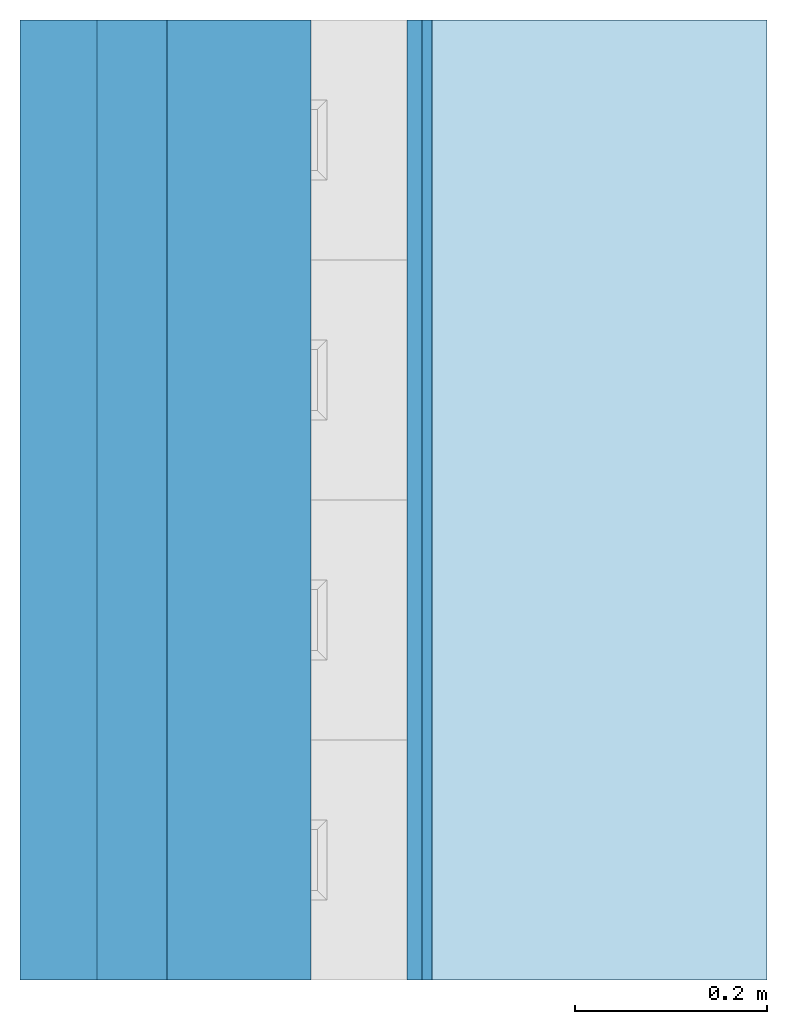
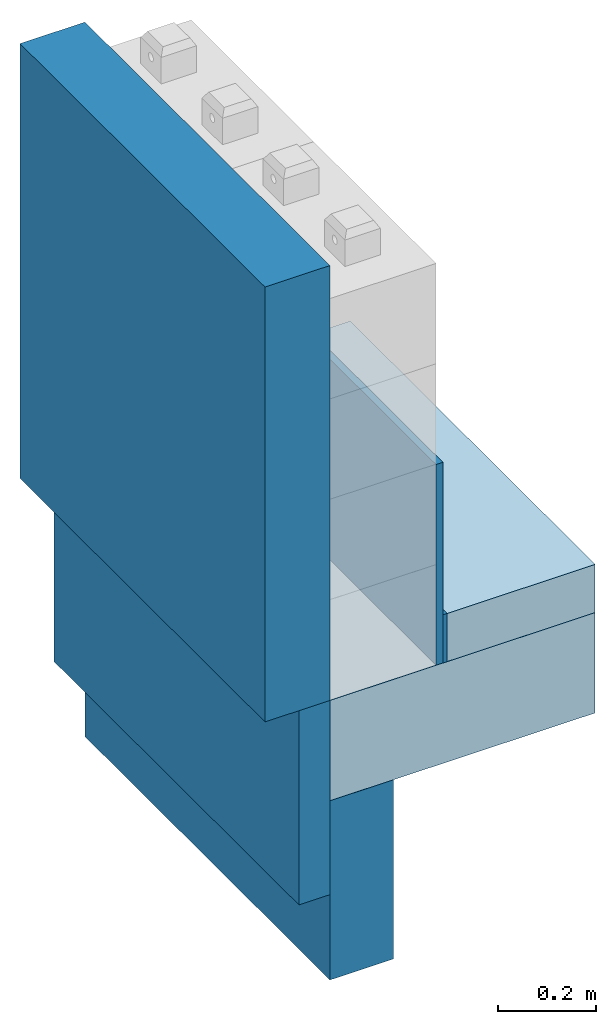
# One storey, incomplete: 6 walls, 2 slabs.
"""IFC4 building model written with IfcOpenShell, lengths in centimetres."""

from ifc_helpers import new_model, entity, si_unit, converted_unit, direction, frame, origin, place, context, subcontext, project, spatial, indexed_curve, outline, extrude, material, constituent, constituent_set, type_object, element, save


model = new_model("IFC4")

# Units and contexts
model_context = context("Model", 3, precision=0.001, world=origin(), true_north=direction((0.0, 1.0)))
body_context = subcontext(model_context, "Body", "Model", "MODEL_VIEW")
ifc_project = project(units=[si_unit("LENGTHUNIT", "METRE", prefix="CENTI"), si_unit("AREAUNIT", "SQUARE_METRE"), si_unit("VOLUMEUNIT", "CUBIC_METRE"), converted_unit("PLANEANGLEUNIT", "DEGREE", entity("IfcPlaneAngleMeasure", 0.017453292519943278), si_unit("PLANEANGLEUNIT", "RADIAN"), dimensions=[0, 0, 0, 0, 0, 0, 0])], contexts=[model_context])

# Site, building, storey
site_placement = place(None, origin())
site = spatial("IfcSite", under=ifc_project, at=site_placement, Name="Default", CompositionType="ELEMENT")
building_placement = place(site_placement, origin())
building = spatial("IfcBuilding", under=site, at=building_placement, CompositionType="ELEMENT")
storey_placement = place(building_placement, frame((0.0, 0.0, -12.0)))
storey = spatial("IfcBuildingStorey", under=building, at=storey_placement, Name="L00__ABOVE Slab", CompositionType="ELEMENT", Elevation=-12.000000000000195)

# Slabs
ifc_material_1 = material(Name="_STRUCTURE__Reinforced Concrete")
slab_type_1 = type_object("IfcSlabType", Name="Floors : Floor : flr__STRUCTURE__Reinforced Concrete 25cm", PredefinedType="FLOOR", material=ifc_material_1)
slab_1_placement = place(storey_placement, origin())
element("IfcSlab", 1, at=slab_1_placement, inside=storey, type_object=slab_type_1, material=ifc_material_1, Name="Floors : Floor : flr__STRUCTURE__Reinforced Concrete 25cm", PredefinedType="FLOOR", context=body_context, shape_type="SweptSolid", body=[
    extrude(outline(indexed_curve([(-49.99999999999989, -31.250000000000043), (50.000000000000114, -31.250000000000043), (50.000000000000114, 31.25000000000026), (-49.99999999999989, 31.25000000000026), (-49.99999999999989, -31.250000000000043)], self_intersect=False)), frame((1444.3994566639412, 1825.371873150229, 10.0), z_axis=(0.0, 0.0, -1.0), x_axis=(0.0, 1.0, 0.0)), (0.0, 0.0, 1.0), 25.0),
])
ifc_material_2 = material(Name="_FINISH STAIR__Int__Parquet Flooring__Stairs", Category="Unassigned")
ifc_constituent_1 = constituent(ifc_material_2, Name="_FINISH STAIR__Int__Parquet Flooring__Stairs", Category="Unassigned", fraction=0.08333333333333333)
ifc_material_3 = material(Name="_FLR LAYERS__Screed, SL 0.5%__Semi-dry CEM, Rc ≥ 22.5 N/mm²", Category="Concrete")
ifc_constituent_2 = constituent(ifc_material_3, Name="_FLR LAYERS__Screed, SL 0.5%__Semi-dry CEM, Rc ≥ 22.5 N/mm²", Category="Concrete", fraction=0.2916666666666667)
ifc_material_4 = material(Name="_FLR COVERING__Polished Concrete", Category="Concrete")
ifc_constituent_3 = constituent(ifc_material_4, Name="_FLR COVERING__Polished Concrete", Category="Concrete", fraction=0.5833333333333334)
ifc_material_5 = material(Name="_FCD VENT LAYERS__Support Board__OSB 3", Category="Ceramic")
ifc_constituent_4 = constituent(ifc_material_5, Name="_FCD VENT LAYERS__Support Board__OSB 3", Category="Ceramic", fraction=0.041666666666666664)
ifc_constituent_set_1 = constituent_set(constituents=[ifc_constituent_1, ifc_constituent_2, ifc_constituent_3, ifc_constituent_4], Name="Floor:flr__INT COVERING__Parquet")
slab_type_2 = type_object("IfcSlabType", Name="Floors : Floor : flr__INT COVERING__Parquet", PredefinedType="FLOOR", material=ifc_constituent_set_1)
slab_2_placement = place(storey_placement, origin())
element("IfcSlab", 2, at=slab_2_placement, inside=storey, type_object=slab_type_2, material=ifc_constituent_set_1, Name="Floors : Floor : flr__INT COVERING__Parquet", PredefinedType="FLOOR", context=body_context, shape_type="SweptSolid", body=[
    extrude(outline(indexed_curve([(-17.449999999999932, -50.000000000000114), (17.449999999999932, -50.000000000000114), (17.449999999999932, 50.000000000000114), (-17.449999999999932, 50.000000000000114), (-17.449999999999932, -50.000000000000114)], self_intersect=False)), frame((1458.1994566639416, 1825.3718731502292, 21.0), z_axis=(0.0, 0.0, 1.0), x_axis=(-1.0, 0.0, 0.0)), (0.0, 0.0, 1.0), 0.9999999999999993),
    extrude(outline(indexed_curve([(-17.449999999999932, -49.99999999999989), (17.449999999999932, -49.99999999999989), (17.449999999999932, 50.000000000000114), (-17.449999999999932, 50.000000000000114), (-17.449999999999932, -49.99999999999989)], self_intersect=False)), frame((1458.1994566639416, 1825.3718731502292, 17.499999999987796), z_axis=(0.0, 0.0, 1.0), x_axis=(-1.0, 0.0, 0.0)), (0.0, 0.0, 1.0), 3.5000000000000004),
    extrude(outline(indexed_curve([(-17.449999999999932, -49.99999999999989), (17.449999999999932, -49.99999999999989), (17.449999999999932, 50.000000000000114), (-17.449999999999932, 50.000000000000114), (-17.449999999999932, -49.99999999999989)], self_intersect=False)), frame((1458.1994566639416, 1825.3718731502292, 10.499999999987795), z_axis=(0.0, 0.0, 1.0), x_axis=(-1.0, 0.0, 0.0)), (0.0, 0.0, 1.0), 7.0),
    extrude(outline(indexed_curve([(-17.449999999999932, -49.99999999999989), (17.449999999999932, -49.99999999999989), (17.449999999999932, 50.000000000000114), (-17.449999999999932, 50.000000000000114), (-17.449999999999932, -49.99999999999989)], self_intersect=False)), frame((1458.1994566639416, 1825.3718731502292, 10.0), z_axis=(0.0, 0.0, 1.0), x_axis=(-1.0, 0.0, 0.0)), (0.0, 0.0, 1.0), 0.49999999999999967),
])

# Walls
ifc_material_6 = material(Name="_FCD FINISH__Mineral Render__Combed, H L/O__Capatect Kreativeffekt \"Filigrano\"__White", Category="Concrete")
ifc_constituent_5 = constituent(ifc_material_6, Name="_FCD FINISH__Mineral Render__Combed, H L/O__Capatect Kreativeffekt \"Filigrano\"__White", Category="Concrete", fraction=0.0196078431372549)
ifc_material_7 = material(Name="_STRUCTURE__Wood Solid")
ifc_constituent_6 = constituent(ifc_material_7, Name="_STRUCTURE__Wood Solid", fraction=0.06535947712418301)
ifc_material_8 = material(Name="_FCD LAYERS__Insulation__Wood-fiber__Steico", Category="Unassigned")
ifc_constituent_7 = constituent(ifc_material_8, Name="_FCD LAYERS__Insulation__Wood-fiber__Steico", Category="Unassigned", fraction=0.9150326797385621)
ifc_constituent_set_2 = constituent_set(constituents=[ifc_constituent_5, ifc_constituent_6, ifc_constituent_7], Name="Basic Wall:wll__EXT ENCLOSURE__Spritzkork, Wood Insulation 8.4cm__TriqBriq, FS.1")
wall_type_1 = type_object("IfcWallType", Name="Walls : Basic Wall : wll__EXT ENCLOSURE__Spritzkork, Wood Insulation 8.4cm__TriqBriq, FS.1", PredefinedType="STANDARD", material=ifc_constituent_set_2)
for number, where, z_axis, x_axis in (
    (3, (1405.4994566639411, 1875.3718731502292, 10.0), (0.0, 0.0, 1.0), (0.0, -1.0, 0.0)),
    (4, (1405.4994566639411, 1875.3718731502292, 10.0), (0.0, 0.0, 1.0), (0.0, -1.0, 0.0)),
):
    element("IfcWall", number, at=place(storey_placement, frame(where, z_axis=z_axis, x_axis=x_axis)), inside=storey, type_object=wall_type_1, material=ifc_constituent_set_2, Name="Walls : Basic Wall : wll__EXT ENCLOSURE__Spritzkork, Wood Insulation 8.4cm__TriqBriq, FS.1", PredefinedType="NOTDEFINED", context=body_context, shape_type="SweptSolid", body=[
        extrude(outline(indexed_curve([(-7.000000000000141, -50.000000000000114), (6.9999999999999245, -50.000000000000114), (7.000000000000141, 50.000000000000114), (-6.9999999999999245, 50.000000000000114), (-7.000000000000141, -50.000000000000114)], self_intersect=False)), frame((50.0, 0.6500000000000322, 0.0), z_axis=(0.0, 0.0, 1.0), x_axis=(0.0, -1.0, 0.0)), (0.0, 0.0, 1.0), 108.33333333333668),
        extrude(outline(indexed_curve([(-49.99999999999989, -0.499999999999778), (50.00000000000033, -0.499999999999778), (50.00000000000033, 0.5000000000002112), (-49.99999999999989, 0.5000000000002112), (-49.99999999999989, -0.499999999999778)], self_intersect=False)), frame((50.0, -6.850000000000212, 0.0)), (0.0, 0.0, 1.0), 108.33333333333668),
        extrude(outline(indexed_curve([(-0.14999999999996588, -50.00000000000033), (0.14999999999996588, -50.00000000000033), (0.15000000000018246, 49.99999999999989), (-0.14999999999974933, 49.99999999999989), (-0.14999999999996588, -50.00000000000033)], self_intersect=False)), frame((50.0, -7.500000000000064, 0.0), z_axis=(0.0, 0.0, 1.0), x_axis=(0.0, 1.0, 0.0)), (0.0, 0.0, 1.0), 108.33333333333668),
    ])
wall_type_2 = type_object("IfcWallType", Name="Walls : Basic Wall : wll__STRUCTURE__Reinforced Concrete 15cm", PredefinedType="STANDARD")
wall_1_placement = place(storey_placement, frame((1420.6494566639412, 1875.3718731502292, -59.64076561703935), z_axis=(0.0, 0.0, 1.0), x_axis=(0.0, -1.0, 0.0)))
element("IfcWall", 5, at=wall_1_placement, inside=storey, type_object=wall_type_2, material=ifc_material_1, Name="Walls : Basic Wall : wll__STRUCTURE__Reinforced Concrete 15cm", PredefinedType="NOTDEFINED", context=body_context, shape_type="SweptSolid", body=[
    extrude(outline(indexed_curve([(100.00000000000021, 7.499999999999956), (-1.0828671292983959e-14, 7.5000000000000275), (1.0828671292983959e-14, -7.5000000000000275), (100.00000000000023, -7.5000000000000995), (100.00000000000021, 7.499999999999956)], self_intersect=False)), origin(), (0.0, 0.0, 1.0), 44.640765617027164),
])
ifc_constituent_8 = constituent(ifc_material_6, Name="_FCD FINISH__Mineral Render__Combed, H L/O__Capatect Kreativeffekt \"Filigrano\"__White", Category="Concrete", fraction=0.0410958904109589)
ifc_constituent_9 = constituent(ifc_material_7, Name="_STRUCTURE__Wood Solid", fraction=0.136986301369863)
ifc_constituent_10 = constituent(ifc_material_8, Name="_FCD LAYERS__Insulation__Wood-fiber__Steico", Category="Unassigned", fraction=0.8219178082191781)
ifc_constituent_set_3 = constituent_set(constituents=[ifc_constituent_8, ifc_constituent_9, ifc_constituent_10], Name="Basic Wall:wll__EXT ENCLOSURE__Spritzkork, Wood Insulation 6.4cm__TriqBriq, FS.1 2")
wall_type_3 = type_object("IfcWallType", Name="Walls : Basic Wall : wll__EXT ENCLOSURE__Spritzkork, Wood Insulation 6.4cm__TriqBriq, FS.1 2", PredefinedType="STANDARD", material=ifc_constituent_set_3)
wall_2_placement = place(storey_placement, frame((1409.4994566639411, 1875.3718731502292, -38.38770897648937), z_axis=(0.0, 0.0, 1.0), x_axis=(0.0, -1.0, 0.0)))
element("IfcWall", 6, at=wall_2_placement, inside=storey, type_object=wall_type_3, material=ifc_constituent_set_3, Name="Walls : Basic Wall : wll__EXT ENCLOSURE__Spritzkork, Wood Insulation 6.4cm__TriqBriq, FS.1 2", PredefinedType="NOTDEFINED", context=body_context, shape_type="SweptSolid", body=[
    extrude(outline(indexed_curve([(-49.99999999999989, -0.5000000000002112), (50.00000000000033, -0.5000000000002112), (50.00000000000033, 0.4999999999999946), (-49.99999999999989, 0.4999999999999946), (-49.99999999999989, -0.5000000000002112)], self_intersect=False)), frame((50.0, -2.849999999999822, 0.0)), (0.0, 0.0, 1.0), 48.38770897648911),
    extrude(outline(indexed_curve([(-3.0000000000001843, -50.000000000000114), (2.999999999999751, -50.000000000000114), (2.9999999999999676, 50.000000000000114), (-2.9999999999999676, 50.000000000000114), (-3.0000000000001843, -50.000000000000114)], self_intersect=False)), frame((50.0, 0.6500000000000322, 0.0), z_axis=(0.0, 0.0, 1.0), x_axis=(0.0, -1.0, 0.0)), (0.0, 0.0, 1.0), 48.38770897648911),
    extrude(outline(indexed_curve([(-0.14999999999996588, -50.00000000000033), (0.14999999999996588, -50.00000000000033), (0.15000000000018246, 49.99999999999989), (-0.14999999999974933, 49.99999999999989), (-0.14999999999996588, -50.00000000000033)], self_intersect=False)), frame((50.0, -3.5000000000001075, 0.0), z_axis=(0.0, 0.0, 1.0), x_axis=(0.0, 1.0, 0.0)), (0.0, 0.0, 1.0), 48.38770897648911),
])
ifc_material_9 = material(Name="_WLL & CLG FINISHES__Lime - CEM Plaster", Category="Unassigned")
ifc_constituent_11 = constituent(ifc_material_9, Name="_WLL & CLG FINISHES__Lime - CEM Plaster", Category="Unassigned", fraction=0.37499999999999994)
ifc_material_10 = material(Name="_FCD LAYERS__Insulation__EPS 120__Austrotherm EPS A120")
ifc_constituent_12 = constituent(ifc_material_10, Name="_FCD LAYERS__Insulation__EPS 120__Austrotherm EPS A120", fraction=0.625)
ifc_constituent_set_4 = constituent_set(constituents=[ifc_constituent_11, ifc_constituent_12], Name="Basic Wall:wll__INT FINISH__Spritzkork, Lime - CEM Plaster 2.4cm TRIQBRIQ")
wall_type_4 = type_object("IfcWallType", Name="Walls : Basic Wall : wll__INT FINISH__Spritzkork, Lime - CEM Plaster 2.4cm TRIQBRIQ", PredefinedType="STANDARD", material=ifc_constituent_set_4)
wall_3_placement = place(storey_placement, frame((1438.9494566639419, 1875.3718731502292, 10.0), z_axis=(0.0, 0.0, 1.0), x_axis=(0.0, -1.0, 0.0)))
element("IfcWall", 7, at=wall_3_placement, inside=storey, type_object=wall_type_4, material=ifc_constituent_set_4, Name="Walls : Basic Wall : wll__INT FINISH__Spritzkork, Lime - CEM Plaster 2.4cm TRIQBRIQ", PredefinedType="NOTDEFINED", context=body_context, shape_type="SweptSolid", body=[
    extrude(outline(indexed_curve([(-0.5000000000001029, -50.00000000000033), (0.4999999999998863, -50.00000000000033), (0.5000000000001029, 49.99999999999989), (-0.4999999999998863, 49.99999999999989), (-0.5000000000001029, -50.00000000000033)], self_intersect=False)), frame((50.0, -0.29999999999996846, 0.0), z_axis=(0.0, 0.0, 1.0), x_axis=(0.0, 1.0, 0.0)), (0.0, 0.0, 1.0), 50.00000000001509),
    extrude(outline(indexed_curve([(-0.30000000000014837, -50.000000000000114), (0.29999999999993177, -50.000000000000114), (0.30000000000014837, 50.000000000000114), (-0.29999999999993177, 50.000000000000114), (-0.30000000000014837, -50.000000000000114)], self_intersect=False)), frame((50.0, 0.5000000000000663, 0.0), z_axis=(0.0, 0.0, 1.0), x_axis=(0.0, -1.0, 0.0)), (0.0, 0.0, 1.0), 50.00000000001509),
])
ifc_material_11 = material(Name="_FND LAYERS__Insulation__Foam Glass__Glapor", Category="Unassigned")
ifc_constituent_13 = constituent(ifc_material_11, Name="_FND LAYERS__Insulation__Foam Glass__Glapor", Category="Unassigned", fraction=1.0)
ifc_constituent_set_5 = constituent_set(constituents=[ifc_constituent_13], Name="Basic Wall:wll__WP & INSULATION_1cm")
wall_type_5 = type_object("IfcWallType", Name="Walls : Basic Wall : wll__WP & INSULATION_1cm", PredefinedType="STANDARD", material=ifc_constituent_set_5)
wall_4_placement = place(storey_placement, frame((1440.2494566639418, 1875.3718731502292, 10.0), z_axis=(0.0, 0.0, 1.0), x_axis=(0.0, -1.0, 0.0)))
element("IfcWall", 8, at=wall_4_placement, inside=storey, type_object=wall_type_5, material=ifc_constituent_set_5, Name="Walls : Basic Wall : wll__WP & INSULATION_1cm", PredefinedType="NOTDEFINED", context=body_context, shape_type="SweptSolid", body=[
    extrude(outline(indexed_curve([(100.00000000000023, 0.5000000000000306), (-7.219114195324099e-16, 0.5000000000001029), (7.219114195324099e-16, -0.5000000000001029), (100.00000000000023, -0.5000000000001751), (100.00000000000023, 0.5000000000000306)], self_intersect=False)), origin(), (0.0, 0.0, 1.0), 12.0),
])

save(model, "model.ifc")
